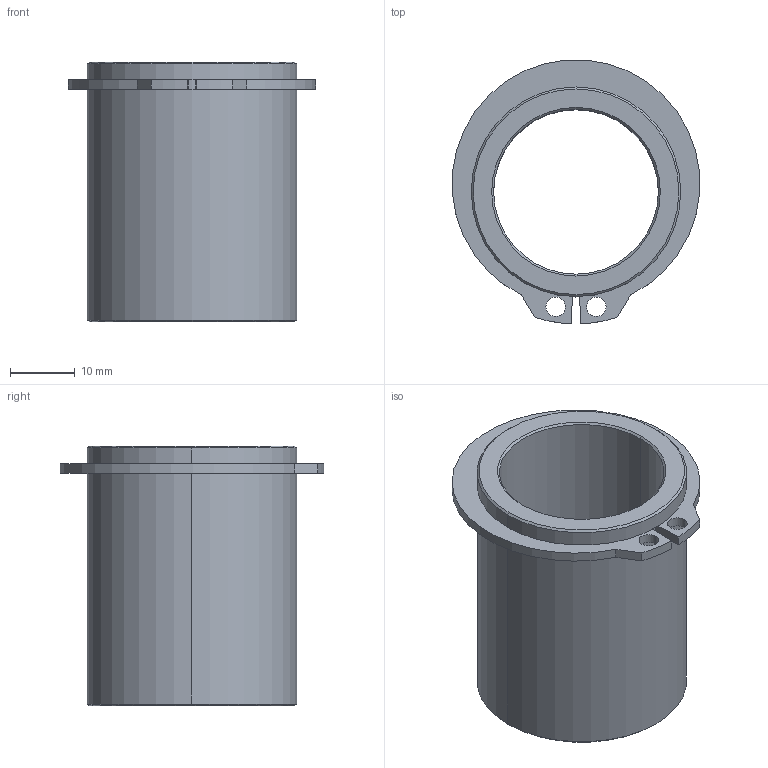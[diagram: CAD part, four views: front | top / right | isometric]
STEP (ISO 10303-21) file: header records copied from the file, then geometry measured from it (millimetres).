
FILE_DESCRIPTION((''),'2;1');
FILE_NAME('C13_025_040.stp','2008-12-17T15:00:48',(''),(''),'Mechanical Desktop 2009','Mechanical Desktop 2009',', , ');
FILE_SCHEMA(('CONFIG_CONTROL_DESIGN'));
Length unit declared in the file: millimetre
Products named in the file (2): Product; blmdl1
Assembly tree (1 placements, depth 2):
  Product
    blmdl1
Bounding box: 38.06 x 40.59 x 40 mm (x, y, z)
Volume: 12983.1 mm3; surface area: 9067 mm2
Topology: 2 solids, 2 shells, 34 faces, 76 edges, 48 vertices
Faces by surface type: cylinder 16, plane 10, cone 8
Entity records: 1075 total; most frequent: DIRECTION 188, CARTESIAN_POINT 160, ORIENTED_EDGE 152, AXIS2_PLACEMENT_3D 76, EDGE_CURVE 76, VERTEX_POINT 48, EDGE_LOOP 42, CIRCLE 40
